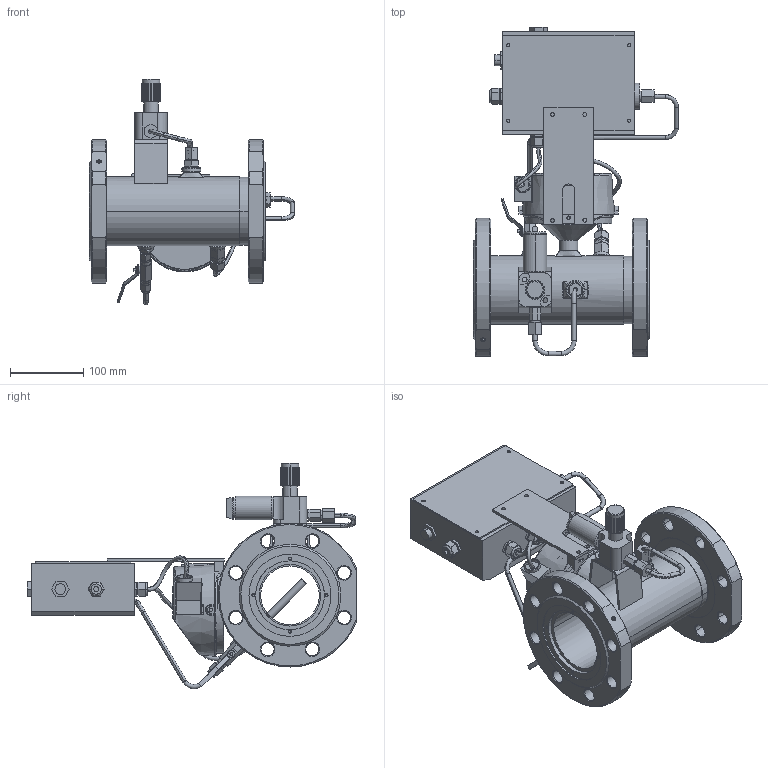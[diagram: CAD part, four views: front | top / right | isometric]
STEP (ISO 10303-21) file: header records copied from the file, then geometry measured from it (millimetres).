
FILE_DESCRIPTION((''),'2;1');
FILE_NAME('SG_SUPERFLOW_DY80_R_ASM','2020-12-23T',('solovki'),(''),'CREO PARAMETRIC BY PTC INC, 2018360','CREO PARAMETRIC BY PTC INC, 2018360','');
FILE_SCHEMA(('AUTOMOTIVE_DESIGN { 1 0 10303 214 1 1 1 1 }'));
Length unit declared in the file: millimetre
Products named in the file (28): 103_AF5; 104_AF3; 105_AF3; 106_AF3; 107_AF3; 108_AF3; 108_AF2; 109; 102_AF2_ASM; 110; 111; 112; 113; 114; 115; 101_AF1_ASM; 116; 117; 118; 119; 120; 121; 122; 123; 124; 125; 126; SG_SUPERFLOW_DY80_R_ASM
Assembly tree (30 placements, depth 4):
  SG_SUPERFLOW_DY80_R_ASM
    101_AF1_ASM
      102_AF2_ASM
        103_AF5
        104_AF3
        105_AF3
        106_AF3
        107_AF3
        108_AF3
        108_AF2
        109
      110
      111
      112
      113
      114  x2
      115
    116
    117
    118
    119
    120
    121
    122
    123
    114
    124  x2
    125
    126
Bounding box: 280 x 449.5 x 307.99 mm (x, y, z)
Volume: 4194492.5 mm3; surface area: 676945.4 mm2
Topology: 28 solids, 58 shells, 1340 faces, 3262 edges, 2058 vertices
Faces by surface type: plane 529, cylinder 486, cone 211, torus 49, bspline 42, sphere 22, extrusion 1
Entity records: 62012 total; most frequent: CARTESIAN_POINT 11343, DIRECTION 6687, ORIENTED_EDGE 6022, PRESENTATION_STYLE_ASSIGNMENT 4393, STYLED_ITEM 4393, EDGE_CURVE 3084, CURVE_STYLE 3073, AXIS2_PLACEMENT_3D 2580
